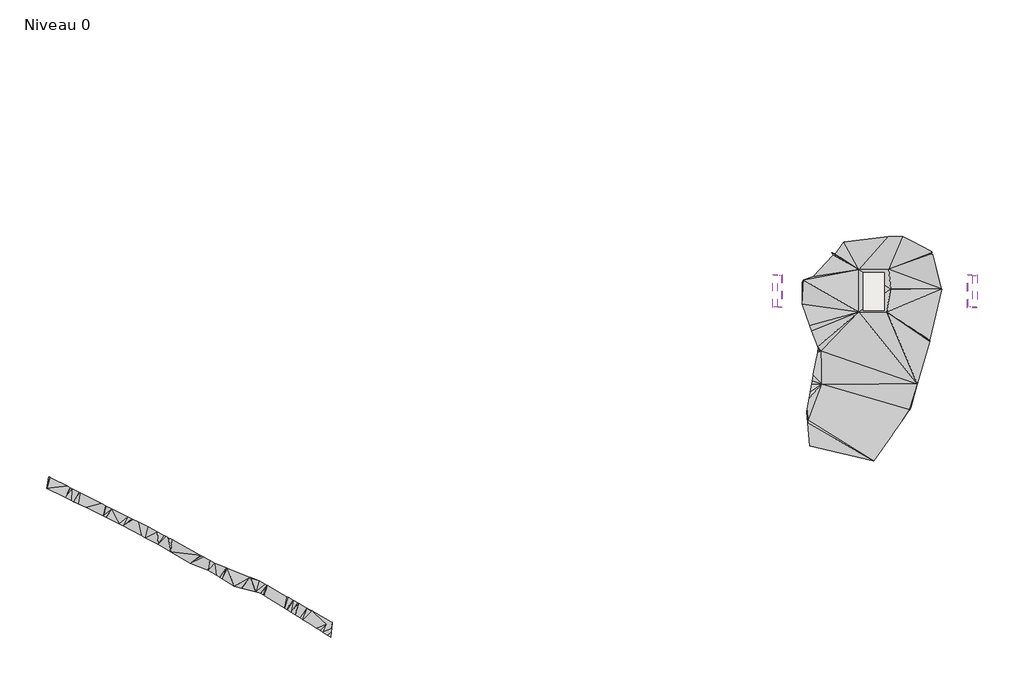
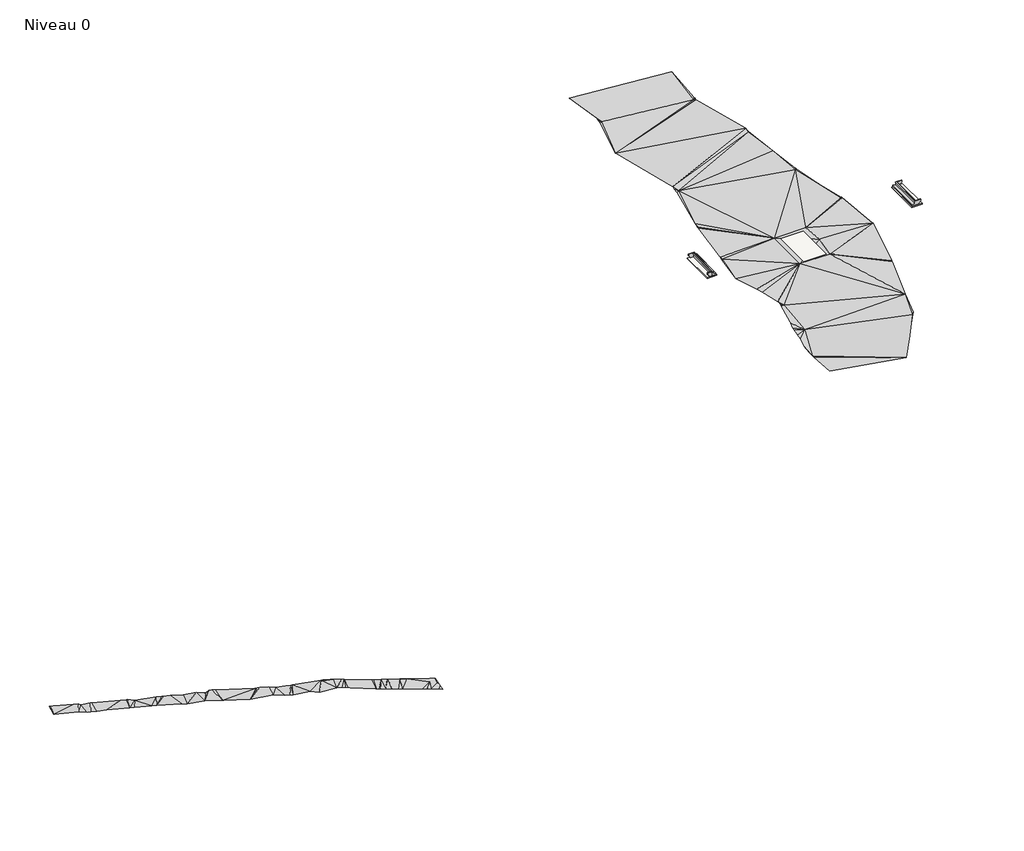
# One storey, incomplete: 4 proxies, 3 slabs.
"""IFC4 building model written with IfcOpenShell, lengths in millimetres."""

from ifc_helpers import new_model, si_unit, frame, origin, place, context, project, spatial, polyline, outline, extrude, faceted_brep, triangles, element, save

model = new_model("IFC4")

# Units and contexts
model_context = context("Model", 3, world=origin())
ifc_project = project(units=[si_unit("LENGTHUNIT", "METRE", prefix="MILLI")], contexts=[model_context])

# Site, building, storey
site = spatial("IfcSite", under=ifc_project)
building = spatial("IfcBuilding", under=site)
storey = spatial("IfcBuildingStorey", under=building, Name="Niveau 0", Elevation=-9166.2668244)

# Proxies
placement = place(None, origin())
element("IfcBuildingElementProxy", 1, Name="Famille Culée : Famille Culée", ObjectType="Famille Culée : Famille Culée", at=placement, inside=storey, context=model_context, shape_type="Brep", body=[
    faceted_brep([(-131345.7238826, 71376.8531735, -2963.4212241), (-131345.7238826, 71376.8531735, -2663.4212241), (-131345.7238826, 71409.4949001, -2663.4212241), (-131345.7238826, 71409.4949001, -2963.4212241), (-131345.7238826, 71609.4949001, -2963.4212241), (-131345.7238826, 71609.4949001, -2663.4212241), (-131345.7238826, 84576.8531735, -2663.4212241), (-131345.7238826, 84576.8531735, -2963.4212241), (-131645.7238826, 71376.8531735, -2963.4212241), (-131645.7238826, 71409.4949001, -2963.4212241), (-131645.7238826, 71609.4949001, -2963.4212241), (-131645.7238826, 84576.8531735, -2963.4212241), (-131645.7238826, 71376.8531735, -3113.4212241), (-131645.7238826, 71409.4949001, -3113.4212241), (-131645.7238826, 71609.4949001, -3113.4212241), (-131645.7238826, 84576.8531735, -3113.4212241), (-131459.7238826, 71376.8531735, -3299.4212241), (-131459.7238826, 71409.4949001, -3299.4212241), (-131459.7238826, 71609.4949001, -3299.4212241), (-131459.7238826, 84576.8531735, -3299.4212241), (-131459.7238826, 71376.8531735, -4479.4212241), (-131459.7238826, 71409.4949001, -4479.4212241), (-131459.7238826, 71609.4949001, -4479.4212241), (-131459.7238826, 84576.8531735, -4479.4212241), (-130039.7238826, 84776.8531735, -4479.4212241), (-130039.7238826, 71376.8531735, -4479.4212241), (-132651.7238826, 71409.4949001, -4479.4212241), (-132651.7238826, 71609.4949001, -4479.4212241), (-132651.7238826, 84576.8531735, -4479.4212241), (-132651.7238826, 84776.8531735, -4479.4212241), (-130039.7238826, 84776.8531735, -3779.4212241), (-130039.7238826, 71376.8531735, -3779.4212241), (-131059.7238826, 84776.8531735, -3779.4212241), (-131059.7238826, 71376.8531735, -3779.4212241), (-131059.7238826, 84776.8531735, -2839.4212241), (-131059.7238826, 71376.8531735, -2839.4212241), (-130945.7238826, 84776.8531735, -2725.4212241), (-130945.7238826, 71376.8531735, -2725.4212241), (-130945.7238826, 84776.8531735, -2663.4212241), (-130945.7238826, 71376.8531735, -2663.4212241), (-133345.7238826, 84776.8531735, -2663.4212241), (-133345.7238826, 84576.8531735, -2663.4212241), (-133345.7238826, 71609.4949001, -2663.4212241), (-133345.7238826, 71409.4949001, -2663.4212241), (-132651.7238826, 84776.8531735, -4057.4212241), (-133345.7238826, 84776.8531735, -3363.4212241), (-132651.7238826, 71409.4949001, -4057.4212241), (-132651.7238826, 71609.4949001, -4057.4212241), (-133345.7238826, 71409.4949001, -3363.4212241), (-133345.7238826, 71609.4949001, -3363.4212241), (-132651.7238826, 84576.8531735, -4057.4212241), (-133345.7238826, 84576.8531735, -3363.4212241)], [[[0, 1, 2, 3]], [[4, 5, 6, 7]], [[8, 0, 3, 9]], [[10, 4, 7, 11]], [[12, 8, 9, 13]], [[14, 10, 11, 15]], [[16, 12, 13, 17]], [[18, 14, 15, 19]], [[20, 16, 17, 21]], [[22, 18, 19, 23]], [[24, 25, 20, 21, 26, 27, 22, 23, 28, 29]], [[25, 24, 30, 31]], [[31, 30, 32, 33]], [[33, 32, 34, 35]], [[35, 34, 36, 37]], [[37, 36, 38, 39]], [[39, 38, 40, 41, 6, 5, 42, 43, 2, 1]], [[1, 0, 8, 12, 16, 20, 25, 31, 33, 35, 37, 39]], [[30, 24, 29, 44, 45, 40, 38, 36, 34, 32]], [[27, 26, 46, 47]], [[47, 46, 48, 49]], [[43, 42, 49, 48]], [[42, 5, 4, 10, 14, 18, 22, 27, 47, 49]], [[2, 43, 48, 46, 26, 21, 17, 13, 9, 3]], [[29, 28, 50, 44]], [[44, 50, 51, 45]], [[41, 40, 45, 51]], [[6, 41, 51, 50, 28, 23, 19, 15, 11, 7]]]),
])
element("IfcBuildingElementProxy", 2, Name="Famille Culée : Famille Culée", ObjectType="Famille Culée : Famille Culée", at=placement, inside=storey, context=model_context, shape_type="Brep", body=[
    faceted_brep([(-50110.2985293, 84776.8531735, -1512.5281933), (-50110.2985293, 84776.8531735, -1212.5281933), (-50110.2985293, 84744.211447, -1212.5281933), (-50110.2985293, 84744.211447, -1512.5281933), (-50110.2985293, 84544.211447, -1512.5281933), (-50110.2985293, 84544.211447, -1212.5281933), (-50110.2985293, 71576.8531735, -1212.5281933), (-50110.2985293, 71576.8531735, -1512.5281933), (-49810.2985293, 84776.8531735, -1512.5281933), (-49810.2985293, 84744.211447, -1512.5281933), (-49810.2985293, 84544.211447, -1512.5281933), (-49810.2985293, 71576.8531735, -1512.5281933), (-49810.2985293, 84776.8531735, -1662.5281933), (-49810.2985293, 84744.211447, -1662.5281933), (-49810.2985293, 84544.211447, -1662.5281933), (-49810.2985293, 71576.8531735, -1662.5281933), (-49996.2985293, 84776.8531735, -1848.5281933), (-49996.2985293, 84744.211447, -1848.5281933), (-49996.2985293, 84544.211447, -1848.5281933), (-49996.2985293, 71576.8531735, -1848.5281933), (-49996.2985293, 84776.8531735, -3028.5281933), (-49996.2985293, 84744.211447, -3028.5281933), (-49996.2985293, 84544.211447, -3028.5281933), (-49996.2985293, 71576.8531735, -3028.5281933), (-51416.2985293, 71376.8531735, -3028.5281933), (-51416.2985293, 84776.8531735, -3028.5281933), (-48804.2985293, 84744.211447, -3028.5281933), (-48804.2985293, 84544.211447, -3028.5281933), (-48804.2985293, 71576.8531735, -3028.5281933), (-48804.2985293, 71376.8531735, -3028.5281933), (-51416.2985293, 71376.8531735, -2328.5281933), (-51416.2985293, 84776.8531735, -2328.5281933), (-50396.2985293, 71376.8531735, -2328.5281933), (-50396.2985293, 84776.8531735, -2328.5281933), (-50396.2985293, 71376.8531735, -1388.5281933), (-50396.2985293, 84776.8531735, -1388.5281933), (-50510.2985293, 71376.8531735, -1274.5281933), (-50510.2985293, 84776.8531735, -1274.5281933), (-50510.2985293, 71376.8531735, -1212.5281933), (-50510.2985293, 84776.8531735, -1212.5281933), (-48110.2985293, 71376.8531735, -1212.5281933), (-48110.2985293, 71576.8531735, -1212.5281933), (-48110.2985293, 84544.211447, -1212.5281933), (-48110.2985293, 84744.211447, -1212.5281933), (-48804.2985293, 71376.8531735, -2606.5281933), (-48110.2985293, 71376.8531735, -1912.5281933), (-48804.2985293, 84744.211447, -2606.5281933), (-48804.2985293, 84544.211447, -2606.5281933), (-48110.2985293, 84744.211447, -1912.5281933), (-48110.2985293, 84544.211447, -1912.5281933), (-48804.2985293, 71576.8531735, -2606.5281933), (-48110.2985293, 71576.8531735, -1912.5281933)], [[[0, 1, 2, 3]], [[4, 5, 6, 7]], [[8, 0, 3, 9]], [[10, 4, 7, 11]], [[12, 8, 9, 13]], [[14, 10, 11, 15]], [[16, 12, 13, 17]], [[18, 14, 15, 19]], [[20, 16, 17, 21]], [[22, 18, 19, 23]], [[24, 25, 20, 21, 26, 27, 22, 23, 28, 29]], [[25, 24, 30, 31]], [[31, 30, 32, 33]], [[33, 32, 34, 35]], [[35, 34, 36, 37]], [[37, 36, 38, 39]], [[39, 38, 40, 41, 6, 5, 42, 43, 2, 1]], [[1, 0, 8, 12, 16, 20, 25, 31, 33, 35, 37, 39]], [[30, 24, 29, 44, 45, 40, 38, 36, 34, 32]], [[27, 26, 46, 47]], [[47, 46, 48, 49]], [[43, 42, 49, 48]], [[42, 5, 4, 10, 14, 18, 22, 27, 47, 49]], [[2, 43, 48, 46, 26, 21, 17, 13, 9, 3]], [[29, 28, 50, 44]], [[44, 50, 51, 45]], [[41, 40, 45, 51]], [[6, 41, 51, 50, 28, 23, 19, 15, 11, 7]]]),
])
element("IfcBuildingElementProxy", 3, Name="Building Element Proxy", at=placement, inside=storey, context=model_context, shape_type="Tessellation", body=[
    triangles([(-438080.3112305, -0.2183258, -36148.047052), (-439081.4780273, -4821.5103516, -36239.1600952), (-431310.4174805, -8767.2026505, -35409.6293335), (-428636.869043, -10039.2593079, -35946.9453735), (-427549.5679688, -10556.6044739, -35688.9773987), (-425675.6730469, -11448.1849365, -35562.624646), (-422414.1791016, -12999.9960297, -35260.6616821), (-415225.4458008, -16420.3721375, -34785.6929993), (-413907.7587891, -17047.3187531, -34602.0739746), (-408456.0357422, -19920.3352478, -34144.3809814), (-406908.5953125, -20735.8389587, -33983.5140564), (-399285.0978516, -24753.3611755, -33659.3803528), (-397572.7558594, -25655.7456299, -33591.4519409), (-392156.7887695, -28509.938855, -32676.8752075), (-386840.7597656, -31621.1652283, -32246.6921631), (-378566.2880859, -36463.8394043, -31774.458197), (-371083.0239258, -39329.9063232, -30948.9830017), (-367611.3102539, -41480.4866821, -30877.3687683), (-366265.0482422, -42314.4404297, -30767.9289368), (-365204.2757813, -42971.5305542, -30728.9778259), (-360119.3768555, -46121.3987549, -29185.8371338), (-357060.3635742, -46923.8939575, -30148.4365173), (-351043.0564453, -48502.4673706, -29424.0528259), (-348991.9444336, -49040.5647583, -29510.677771), (-347987.8010742, -49670.3542236, -29597.3585266), (-347480.7808594, -49988.3766724, -29574.14599), (-346708.6233398, -50472.6726929, -29593.9866394), (-339069.4617188, -55264.0267456, -29816.4032959), (-338927.7773438, -55352.8910889, -29814.4731812), (-338350.3242188, -55715.0596802, -29777.2173157), (-337881.2923828, -56009.2510254, -29762.6763428), (-336234.6208008, -57042.0624023, -29731.3247681), (-334468.4030273, -58149.8273438, -29651.1877991), (-332497.5837891, -59385.9472412, -29632.4563843), (-331261.9754883, -60160.9278442, -29571.1694275), (-329125.9198242, -61500.6786255, -29507.222168), (-325417.4578125, -63826.6761841, -29435.6521179), (-324073.2421875, -64669.7782104, -29415.9440186), (-322852.1446289, -65435.6570435, -29418.7112915), (-320757.3143555, -66749.5582397, -29407.5840637), (-319511.6601562, -67530.8407837, -29432.1476807), (-319332.5455078, -65522.5819702, -29196.9434326), (-319179.4385742, -63805.6495605, -28999.9996399), (-318959.4706055, -61339.1117432, -28734.3088806), (-319009.3652344, -61310.7692871, -28733.871698), (-319498.8237305, -61032.7862549, -28746.1035095), (-320653.2834961, -60377.1472046, -28774.9482605), (-327222.2220703, -56646.4865479, -28958.7789001), (-327437.2042969, -56524.3963257, -28966.8342224), (-327548.0068359, -56461.4606323, -28969.5875427), (-327659.8883789, -56397.9203247, -28970.3200562), (-329609.5740234, -55290.6530273, -28999.9996399), (-333054.5730469, -53334.163147, -29053.6638062), (-333204.8522461, -53248.8102173, -29061.314502), (-333349.7736328, -53166.512915, -29064.997998), (-335260.5407227, -52081.3419434, -29135.3355652), (-337536.1599609, -50788.9464111, -29292.8794373), (-338082.0615234, -50478.9141724, -29303.3043823), (-341112.5742188, -48757.823877, -29233.0854126), (-346374.9878906, -45769.1737427, -29127.9941528), (-346490.1064453, -45703.791687, -29133.8147278), (-347080.9913086, -45368.2075195, -29087.0385132), (-349677.1491211, -43893.7951904, -29011.4291748), (-352814.4087891, -42627.4445801, -28963.3623413), (-352950.5865234, -42572.4711914, -28952.7862427), (-352998.8068359, -42553.0165649, -28952.7862427), (-353003.7181641, -42551.0352905, -28952.7862427), (-353154.1833984, -42490.2994629, -28952.7862427), (-353338.3209961, -42415.9737671, -28952.7862427), (-353434.7616211, -42377.0412598, -28952.7862427), (-353513.194043, -42345.3873779, -28952.7862427), (-353695.2480469, -42271.8988403, -28999.9996399), (-363002.8473633, -38514.9072327, -29941.1049866), (-363512.9185547, -38309.0197998, -29999.9990662), (-365046.0714844, -37690.1622253, -30156.1639526), (-368334.168457, -36362.9316101, -30491.080719), (-370542.3313477, -35154.6332703, -30224.0295776), (-371340.422168, -34717.9343445, -30285.6048889), (-373247.4685547, -33674.3980408, -30447.9786987), (-373934.3103516, -33298.5767944, -30576.8801331), (-374399.3982422, -33044.0760498, -30745.6512268), (-386520.5932617, -26411.4692688, -31073.1289124), (-387827.3414063, -25696.433844, -31158.3539429), (-388736.2347656, -25199.0921082, -31239.4629456), (-389428.0995117, -24820.5059143, -32078.146637), (-389489.5283203, -24786.8893616, -32097.7105591), (-390184.2580078, -24406.7474487, -32318.9505432), (-392546.2719727, -23114.2705261, -32169.8666199), (-396408.5106445, -21000.894873, -32997.6021423), (-400565.9126953, -18984.4656281, -33180.6677124), (-402730.6177734, -17934.5506439, -33282.2173279), (-403195.2591797, -17709.1981201, -33331.5585022), (-404906.3733398, -16879.2662201, -33480.5633606), (-411699.8935547, -13584.2766449, -34490.9156433), (-413924.7624023, -12438.6314575, -34164.4983582), (-414281.9126953, -12254.7205902, -34212.9326111), (-416133.0741211, -11301.5101685, -34327.2256348), (-424923.6073242, -6775.00681, -35115.2589294), (-425300.8866211, -6580.7244827, -35139.5341919), (-428301.4104492, -5035.671698, -35851.0372742), (-429092.0598633, -4628.5317238, -35368.2155823), (-430466.4875977, -3920.793528, -35515.2973022), (-436793.3572266, -662.9146236, -36035.3190491), (-437515.8433594, -290.8784297, -36089.8668823), (-437662.3646484, -215.4324534, -36103.5893005), (-437753.7823242, -168.3628338, -36117.0559204), (-389787.7426758, -24899.9545532, -32369.6916321), (-353265.3208008, -42835.655127, -28952.7862427), (-353608.3696289, -42425.4057495, -28952.7862427), (-353480.4518555, -42559.0022461, -28952.7862427), (-353213.4914062, -42726.4524902, -28952.7862427), (-327686.0077148, -56675.6243042, -28999.9996399), (-321474.740332, -62003.5595581, -28999.9996399), (-319438.9576172, -63680.2293091, -28999.9996399)], [[88, 13, 14], [83, 14, 15], [84, 14, 83], [16, 81, 15], [81, 16, 80], [15, 82, 83], [82, 15, 81], [14, 87, 88], [13, 89, 12], [89, 13, 88], [107, 84, 85], [14, 107, 87], [85, 86, 107], [107, 86, 87], [14, 84, 107], [18, 76, 17], [19, 75, 18], [73, 21, 72], [19, 20, 74], [73, 20, 21], [21, 22, 72], [20, 73, 74], [79, 80, 16], [17, 78, 79], [75, 76, 18], [78, 17, 77], [75, 19, 74], [17, 76, 77], [79, 16, 17], [3, 102, 2], [100, 3, 4], [99, 5, 98], [100, 4, 99], [5, 6, 98], [99, 4, 5], [101, 3, 100], [1, 2, 106], [106, 2, 105], [102, 103, 2], [104, 2, 103], [2, 104, 105], [102, 3, 101], [10, 94, 9], [11, 93, 10], [90, 91, 11], [92, 11, 91], [12, 90, 11], [12, 89, 90], [92, 93, 11], [7, 8, 97], [97, 98, 7], [8, 96, 97], [7, 98, 6], [94, 8, 9], [96, 8, 95], [95, 8, 94], [10, 93, 94], [52, 33, 34], [33, 53, 32], [35, 36, 112], [35, 112, 52], [48, 49, 112], [112, 36, 48], [34, 35, 52], [50, 112, 49], [56, 29, 30], [57, 28, 29], [52, 112, 51], [30, 31, 56], [56, 31, 32], [51, 112, 50], [52, 53, 33], [113, 38, 39], [113, 37, 38], [40, 41, 42], [42, 114, 39], [42, 39, 40], [42, 43, 114], [48, 113, 47], [113, 48, 37], [47, 113, 46], [114, 44, 45], [44, 114, 43], [45, 46, 114], [114, 46, 113], [113, 39, 114], [37, 48, 36], [110, 108, 111], [108, 109, 22], [111, 108, 64], [69, 110, 111], [63, 108, 23], [64, 65, 111], [66, 111, 65], [64, 108, 63], [108, 110, 109], [67, 111, 66], [72, 109, 71], [72, 22, 109], [71, 109, 70], [70, 110, 69], [109, 110, 70], [68, 69, 111], [111, 67, 68], [22, 23, 108], [58, 59, 28], [28, 57, 58], [28, 59, 27], [32, 55, 56], [29, 56, 57], [32, 54, 55], [32, 53, 54], [60, 24, 25], [63, 23, 62], [62, 23, 24], [25, 26, 60], [61, 24, 60], [62, 24, 61], [26, 27, 60], [27, 59, 60]], closed=False),
])
element("IfcBuildingElementProxy", 4, Name="Building Element Proxy", at=placement, inside=storey, context=model_context, shape_type="Tessellation", body=[
    triangles([(-118159.8760254, 12949.0723938, -14000.0001068), (-91209.4373291, 6679.3574158, -14000.0001068), (-83493.9547852, 17687.2982941, -14000.0001068), (-83450.1342041, 17749.8200592, -14000.0001068), (-79348.8496582, 23601.2524292, -14000.0001068), (-76245.9599854, 28028.2473267, -13906.6523163), (-76136.0411133, 28185.0726379, -13895.7587952), (-76040.4004395, 28321.529425, -13893.950766), (-75836.4128906, 28612.5674744, -13798.5403107), (-75610.1476318, 28935.3873047, -13699.3847351), (-72892.5460693, 39077.6100952, -13150.9461182), (-67765.6915649, 56957.0768921, -11987.672937), (-67655.5959595, 57433.945459, -11972.2227173), (-67645.8663208, 57476.0917236, -11968.1020386), (-67635.336731, 57521.7121948, -11964.5359772), (-62704.2935303, 78880.403833, -10901.0462402), (-62751.2581055, 79068.7737305, -10952.0942871), (-62760.3552246, 79105.2552246, -10965.1469788), (-62768.7872681, 79139.0671143, -10970.6745483), (-62776.6751587, 79170.7116943, -10965.9376282), (-62780.3726074, 79185.5386963, -10960.6867859), (-66465.3430298, 93965.1481934, -7878.5702637), (-66557.8722656, 94233.8759766, -7841.1132477), (-66615.8082642, 94402.1354736, -7857.3459778), (-66672.9489624, 94568.0881348, -7836.1995941), (-70046.5895508, 104365.8528809, -6999.9680786), (-72897.6015747, 114308.5018066, -5804.3817535), (-72948.6496216, 114486.5374512, -5798.2838699), (-72968.3460938, 114555.2309326, -5806.7316101), (-72977.6850586, 114608.1858398, -5810.0331528), (-73011.6783325, 114800.9740723, -5780.3843811), (-73039.6254639, 114959.4667236, -5768.1752426), (-75164.500415, 127010.2381348, -4886.7947388), (-77420.3022583, 139803.5223633, -3951.106794), (-77424.9112793, 139829.6416992, -3947.1433731), (-77431.1109009, 139864.8209473, -3937.0503845), (-77439.7987427, 139914.0923584, -3895.7581375), (-77487.2795654, 140183.3596436, -3743.2273315), (-77550.5547729, 140542.2121582, -3565.9253632), (-77699.76427, 141388.4302734, -3244.774617), (-85155.2766357, 163040.8016602, -1661.8160065), (-85155.2766357, 163367.6282227, -1432.6789753), (-85155.2766357, 163500.3829102, -1445.1789391), (-85155.2766357, 163653.0061523, -1567.7304703), (-85155.2766357, 163875.9134766, -1657.7318081), (-85155.2766357, 164415.0247559, -1463.0397675), (-85155.2766357, 179567.9789063, 0.0), (-125312.053418, 181037.8426758, 2000.0000153), (-122476.2172119, 167082.3410156, 1114.5114773), (-122515.4055176, 166834.9142578, 1195.9254759), (-122648.8020264, 165992.6772949, 1194.5252707), (-122825.4424072, 164877.4151367, 1157.5519461), (-123020.174707, 163647.871582, 1130.7317808), (-125283.4505127, 149358.1391602, -1873.3683552), (-125292.0360352, 149303.9471191, -1889.2029991), (-125269.0327881, 149228.7052002, -1946.9628456), (-125265.4609131, 149217.0128906, -1941.9973057), (-125246.9039063, 149156.3282227, -1917.4137772), (-125234.3000244, 149115.0935303, -1856.8613686), (-125230.5607178, 149102.8710205, -1876.8492474), (-125220.7659668, 149070.8357666, -1890.3081642), (-117352.8555176, 123336.0624023, -3202.0443764), (-117375.7192383, 123173.38396, -3107.8579742), (-117438.0875244, 122729.5970947, -3017.891082), (-117588.3946289, 121660.099585, -3109.6878044), (-117970.5852539, 118940.712085, -2953.933358), (-120275.4957275, 102540.4387207, -5266.5308624), (-120308.0425781, 101919.2859375, -5406.0281616), (-120356.0303467, 101003.7232178, -5778.9757462), (-120388.5958008, 100382.1983643, -5697.4028183), (-121273.6394531, 83494.5780029, -7483.9478394), (-121310.5116211, 82791.0860596, -7816.9298401), (-121322.2132324, 82567.8438721, -7847.1663666), (-121322.2132324, 81576.01604, -8000.000061), (-121322.2132324, 73645.3512817, -9793.0406158), (-121322.2132324, 72583.9090942, -10000.0000763), (-121322.2132324, 72567.8449585, -10000.0000763), (-118060.0030518, 63604.9966919, -10000.0000763), (-117263.7539795, 61417.3255737, -10403.8451935), (-114856.7381104, 54804.1152832, -11123.0152496), (-114546.6640137, 53952.1765869, -11370.0338928), (-114598.3538818, 53686.2532837, -11384.8271759), (-114734.4385986, 52986.1471802, -11472.9276123), (-114865.0259766, 52314.3370239, -11531.4740387), (-116645.5591553, 43154.2775391, -12116.6406464), (-116750.4178711, 42559.6301147, -12158.6264557), (-117142.2172119, 40337.6122559, -12728.9323425), (-117387.904541, 38944.2531189, -12748.6241638), (-117960.6416748, 35696.090918, -12612.3057404), (-118409.386377, 33151.1323059, -12365.9742645), (-119243.0564209, 28423.1348511, -12854.2305084), (-119423.9291016, 27397.355603, -12872.6154327), (-119172.7072266, 24525.8076233, -13552.9692535), (-119117.8175537, 23898.4459167, -13577.530545), (-119075.8201172, 23418.3635925, -13544.4813995), (-119039.3200195, 23001.1774292, -13524.7651611), (-118998.7364502, 22537.3429504, -13589.9867615), (-86733.4500732, 85906.3005615, -10034.0410217), (-86733.4500732, 80598.5873291, -10166.0364532), (-86733.4500732, 77169.8338257, -10166.1550507), (-86733.4500732, 69906.3004395, -10012.4807098), (-95733.4495605, 69906.3004395, -10012.4807098), (-95733.4495605, 70661.7845581, -10028.4646179), (-95733.4495605, 85906.3005615, -10027.9367432), (-95588.0816895, 85906.3005615, -10030.1645142), (-84140.9106445, 79044.5426514, -10205.8189087), (-76245.3507202, 28246.0828674, -14000.0001068), (-113118.4907227, 38973.1722839, -14000.0001068), (-118771.8200684, 23830.5221558, -14000.0001068), (-113363.015332, 52981.1102783, -12000.0000916), (-67694.1610474, 57485.0074585, -12000.0000916), (-62811.4125732, 79142.6761963, -10999.9995026), (-120805.1378174, 82770.1943115, -8000.000061), (-66828.2790161, 94331.1723633, -8000.000061), (-119908.7088135, 101134.2919922, -6000.0000458), (-73317.4410645, 114508.6012207, -6000.0000458), (-116212.7390625, 121204.1088135, -4000.0000305), (-77522.4727661, 139850.0311523, -4000.0000305), (-125197.5859863, 149273.0838867, -2000.0000153), (-85620.9133301, 163769.7432129, -2000.0000153), (-121254.8685059, 165738.1067871, 0.0), (-97553.8500732, 87084.6379395, -10000.0000763), (-84899.2736572, 87307.4615479, -10000.0000763), (-85731.4182129, 69316.4062134, -10000.0000763), (-97593.9778564, 69316.4062134, -10000.0000763)], [[109, 93, 94], [109, 94, 95], [109, 97, 2], [96, 109, 95], [109, 96, 97], [91, 109, 108], [93, 109, 92], [125, 75, 76], [75, 113, 74], [125, 76, 77], [92, 109, 91], [74, 113, 73], [91, 108, 90], [108, 109, 3], [108, 87, 88], [108, 86, 87], [88, 89, 108], [85, 108, 110], [108, 85, 86], [84, 110, 83], [110, 84, 85], [110, 11, 125], [89, 90, 108], [125, 78, 79], [79, 80, 125], [82, 110, 81], [113, 75, 125], [82, 83, 110], [110, 125, 80], [110, 80, 81], [125, 124, 102], [125, 77, 78], [108, 11, 110], [1, 2, 97], [103, 122, 125], [119, 56, 57], [119, 57, 58], [60, 61, 119], [59, 119, 58], [119, 59, 60], [119, 121, 53], [56, 119, 55], [55, 119, 54], [53, 54, 119], [53, 121, 52], [52, 121, 51], [121, 50, 51], [50, 121, 49], [48, 49, 121], [61, 41, 119], [72, 113, 71], [113, 72, 73], [122, 70, 71], [71, 113, 122], [70, 115, 69], [115, 70, 122], [67, 68, 115], [115, 68, 69], [115, 122, 67], [113, 125, 122], [66, 67, 117], [66, 117, 65], [64, 117, 63], [117, 64, 65], [119, 120, 121], [62, 63, 117], [40, 61, 62], [67, 122, 117], [117, 118, 62], [121, 47, 48], [122, 116, 117], [125, 102, 103], [108, 3, 4], [108, 4, 5], [5, 6, 107], [125, 11, 124], [7, 107, 6], [107, 108, 5], [11, 108, 107], [99, 106, 98], [103, 104, 122], [101, 124, 100], [100, 106, 99], [106, 100, 124], [106, 124, 16], [102, 124, 101], [123, 98, 106], [8, 107, 7], [3, 109, 2], [10, 107, 9], [11, 107, 10], [12, 124, 11], [12, 13, 111], [111, 14, 15], [14, 111, 13], [111, 124, 12], [15, 124, 111], [124, 15, 16], [20, 112, 19], [20, 21, 112], [16, 112, 106], [106, 112, 123], [17, 18, 112], [19, 112, 18], [112, 16, 17], [107, 8, 9], [21, 22, 112], [62, 118, 40], [123, 105, 98], [118, 39, 40], [33, 118, 117], [40, 41, 61], [118, 36, 37], [35, 36, 118], [37, 38, 118], [118, 38, 39], [122, 123, 116], [41, 42, 120], [120, 43, 44], [43, 120, 42], [120, 119, 41], [45, 46, 120], [47, 120, 46], [120, 44, 45], [121, 120, 47], [105, 123, 122], [26, 116, 123], [27, 28, 116], [25, 26, 114], [26, 27, 116], [22, 23, 114], [24, 25, 114], [23, 24, 114], [114, 123, 22], [33, 116, 32], [33, 34, 118], [35, 118, 34], [33, 117, 116], [29, 30, 116], [31, 32, 116], [30, 31, 116], [116, 28, 29], [26, 123, 114], [123, 112, 22], [122, 104, 105]], closed=False),
])

# Slabs
element("IfcSlab", 5, ObjectType="Terre-plein Béton - 300 mm", at=placement, inside=storey, context=model_context, shape_type="SweptSolid", body=[
    extrude(outline(polyline([(-47619.6726856, 84975.6857389), (-47619.6726856, 71075.6857389), (-51819.6726856, 71075.6857389), (-51819.6726856, 84975.6857389), (-47619.6726856, 84975.6857389)])), frame((0.0, 0.0, -3300.0), z_axis=(0.0, 0.0, 1.0), x_axis=(1.0, 0.0, 0.0)), (0.0, 0.0, 1.0), 300.0),
])
element("IfcSlab", 6, ObjectType="Terre-plein Béton - 300 mm", at=placement, inside=storey, context=model_context, shape_type="SweptSolid", body=[
    extrude(outline(polyline([(-86733.4523202, 85906.300888), (-86733.4523202, 69906.300888), (-95733.4523202, 69906.300888), (-95733.4523202, 85906.300888), (-86733.4523202, 85906.300888)])), frame((0.0, 0.0, -10300.0), z_axis=(0.0, 0.0, 1.0), x_axis=(1.0, 0.0, 0.0)), (0.0, 0.0, 1.0), 300.0),
])
element("IfcSlab", 7, ObjectType="Terre-plein Béton - 300 mm", at=placement, inside=storey, context=model_context, shape_type="SweptSolid", body=[
    extrude(outline(polyline([(-129713.5442944, 85018.3078282), (-129713.5442944, 71218.3078282), (-133613.5442944, 71218.3078282), (-133613.5442944, 85018.3078282), (-129713.5442944, 85018.3078282)])), frame((0.0, 0.0, -4800.0), z_axis=(0.0, 0.0, 1.0), x_axis=(1.0, 0.0, 0.0)), (0.0, 0.0, 1.0), 300.0),
])

save(model, "model.ifc")
